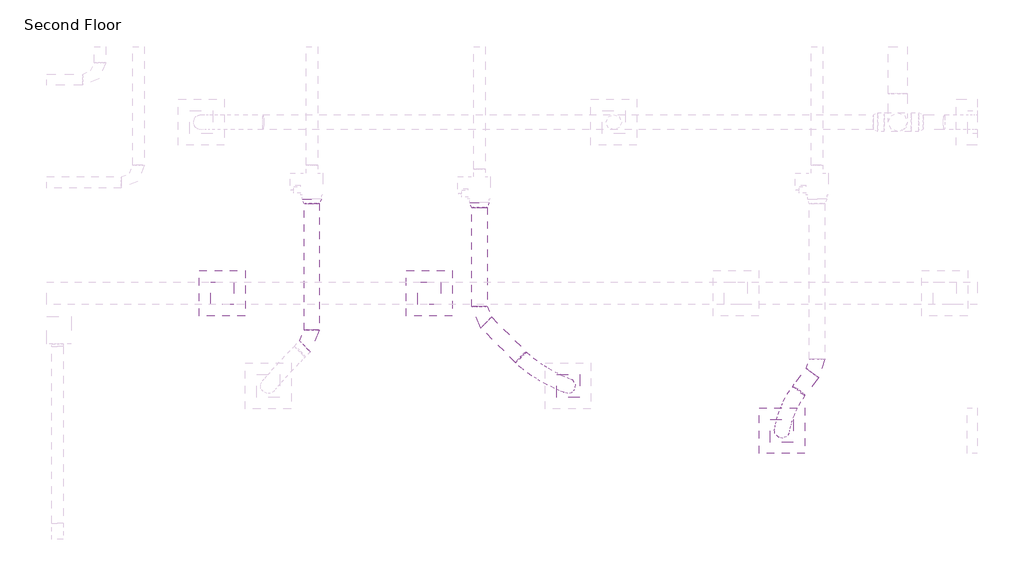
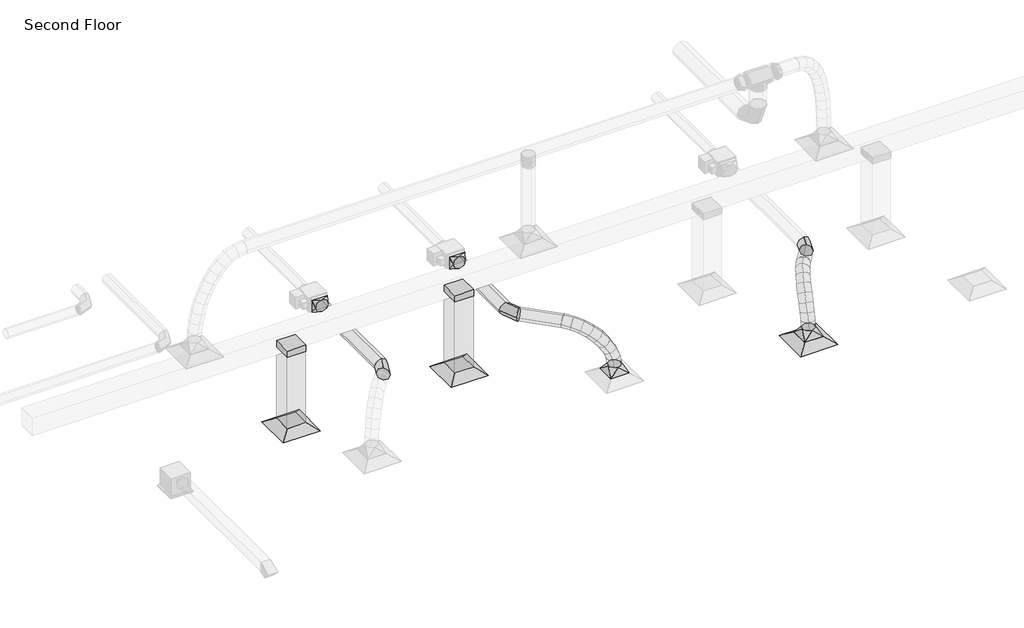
# One storey, part 3 of 44: 9 duct fittings, 8 duct segments, 3 air terminals.
"""IFC4 building model written with IfcOpenShell, lengths in millimetres."""

from ifc_helpers import new_model, si_unit, point, frame, frame_2d, origin, place, context, project, spatial, polyline, circle_curve, ellipse_curve, trimmed, segment, composite_curve, outline, extrude, transform, mapped, element, save
from ifc_brep_helpers import plane_surface, cylinder_surface, advanced_brep
from components import m_exhaust_grill_er_600_x_600_face_300_x_300_connection_ff221211, m_rectangular_takeoff_standard_c00386d1, m_rectangular_to_round_transition_angle_45_degree_60daae35, m_rectangular_to_round_transition_angle_45_degree_1b7ae117, m_round_elbow_1_5_d_f3829448, m_round_elbow_1_5_d_143daf02

model = new_model("IFC4")

# Units and contexts
model_context = context("Model", 3, world=origin())
ifc_project = project(units=[si_unit("LENGTHUNIT", "METRE", prefix="MILLI")], contexts=[model_context])

# Site, building, storey
site = spatial("IfcSite", under=ifc_project)
building = spatial("IfcBuilding", under=site)
storey = spatial("IfcBuildingStorey", under=building, Name="Second Floor", Elevation=4570.0)

# Air terminals
placement = place(None, origin())
m_exhaust_grill_er_600_x_600_face_300_x_300_connection_shape = m_exhaust_grill_er_600_x_600_face_300_x_300_connection_ff221211(model_context)
element("IfcAirTerminal", 1, ObjectType="M_Return Register : RR-600 x 600 Face 300 x 300 Connection", at=placement, inside=storey, context=model_context, shape_type="MappedRepresentation", body=[
    mapped(m_exhaust_grill_er_600_x_600_face_300_x_300_connection_shape, transform((-37234.9794591, 12657.116341, 7250.0), x_axis=(1.0, 0.0, 0.0), y_axis=(0.0, 1.0, 0.0), z_axis=(0.0, 0.0, 1.0))),
])
element("IfcAirTerminal", 2, ObjectType="M_Return Register : RR-600 x 600 Face 300 x 300 Connection", at=placement, inside=storey, context=model_context, shape_type="MappedRepresentation", body=[
    mapped(m_exhaust_grill_er_600_x_600_face_300_x_300_connection_shape, transform((-39949.0523228, 12657.116341, 7250.0), x_axis=(1.0, 0.0, 0.0), y_axis=(0.0, 1.0, 0.0), z_axis=(0.0, 0.0, 1.0))),
])
element("IfcAirTerminal", 3, ObjectType="M_Supply Diffuser : SD-600 x 600 Face 300 x 300 Connection", at=placement, inside=storey, context=model_context, shape_type="MappedRepresentation", body=[
    mapped(m_exhaust_grill_er_600_x_600_face_300_x_300_connection_shape, transform((-32616.8968441, 10855.5728123, 7250.0), x_axis=(1.0, 0.0, 0.0), y_axis=(0.0, 1.0, 0.0), z_axis=(0.0, 0.0, 1.0))),
])

# Duct fittings
m_rectangular_takeoff_standard_shape = m_rectangular_takeoff_standard_c00386d1(model_context)
element("IfcDuctFitting", 4, ObjectType="M_Rectangular Takeoff : Standard", at=placement, inside=storey, context=model_context, shape_type="MappedRepresentation", body=[
    mapped(m_rectangular_takeoff_standard_shape, transform((-39949.0523228, 12657.116341, 8670.0), x_axis=(0.0, 0.0, -1.0), y_axis=(0.0, 1.0, 0.0), z_axis=(1.0, 0.0, 0.0))),
])
element("IfcDuctFitting", 5, ObjectType="M_Rectangular Takeoff : Standard", at=placement, inside=storey, context=model_context, shape_type="MappedRepresentation", body=[
    mapped(m_rectangular_takeoff_standard_shape, transform((-37234.9794591, 12657.116341, 8670.0), x_axis=(0.0, 0.0, -1.0), y_axis=(0.0, 1.0, 0.0), z_axis=(1.0, 0.0, 0.0))),
])
m_rectangular_to_round_transition_angle_45_degree_shape = m_rectangular_to_round_transition_angle_45_degree_60daae35(model_context)
element("IfcDuctFitting", 6, ObjectType="M_Rectangular to Round Transition - Angle : 45 Degree", at=placement, inside=storey, context=model_context, shape_type="MappedRepresentation", body=[
    mapped(m_rectangular_to_round_transition_angle_45_degree_shape, transform((-35417.6922006, 11441.070624, 7351.6), x_axis=(0.0, 0.0, 1.0), y_axis=(1.0, 0.0, 0.0), z_axis=(0.0, 1.0, 0.0))),
])
element("IfcDuctFitting", 7, ObjectType="M_Rectangular to Round Transition - Angle : 45 Degree", at=placement, inside=storey, context=model_context, shape_type="MappedRepresentation", body=[
    mapped(m_rectangular_to_round_transition_angle_45_degree_shape, transform((-32616.8968441, 10855.5728123, 7351.6), x_axis=(0.0, 0.0, 1.0), y_axis=(1.0, 0.0, 0.0), z_axis=(0.0, 1.0, 0.0))),
])
m_rectangular_to_round_transition_angle_45_degree_2_shape = m_rectangular_to_round_transition_angle_45_degree_1b7ae117(model_context)
element("IfcDuctFitting", 8, ObjectType="M_Rectangular to Round Transition - Angle : 45 Degree", at=placement, inside=storey, context=model_context, shape_type="MappedRepresentation", body=[
    mapped(m_rectangular_to_round_transition_angle_45_degree_2_shape, transform((-36578.6814374, 13843.4279081, 8189.05), x_axis=(0.0, -1.0, 0.0), y_axis=(1.0, 0.0, 0.0), z_axis=(0.0, 0.0, 1.0))),
])
element("IfcDuctFitting", 9, ObjectType="M_Rectangular to Round Transition - Angle : 45 Degree", at=placement, inside=storey, context=model_context, shape_type="MappedRepresentation", body=[
    mapped(m_rectangular_to_round_transition_angle_45_degree_2_shape, transform((-38775.1271337, 13891.8174916, 8189.05), x_axis=(0.0, -1.0, 0.0), y_axis=(1.0, 0.0, 0.0), z_axis=(0.0, 0.0, 1.0))),
])
m_round_elbow_1_5_d_shape = m_round_elbow_1_5_d_f3829448(model_context)
element("IfcDuctFitting", 10, ObjectType="M_Round Elbow : 1.5 D", at=placement, inside=storey, context=model_context, shape_type="MappedRepresentation", body=[
    mapped(m_round_elbow_1_5_d_shape, transform((-36578.6814374, 12361.480915, 8189.1), x_axis=(0.0, -1.0, 0.0), y_axis=(1.0, 0.0, 0.0), z_axis=(0.0, 0.0, 1.0))),
])
element("IfcDuctFitting", 11, ObjectType="M_Round Elbow : 1.5 D", at=placement, inside=storey, context=model_context, shape_type="MappedRepresentation", body=[
    mapped(m_round_elbow_1_5_d_shape, transform((-38775.1271337, 12048.3608555, 8189.1), x_axis=(0.7071067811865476, 0.7071067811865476, 0.0), y_axis=(-0.7071067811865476, 0.7071067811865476, 0.0), z_axis=(0.0, 0.0, 1.0))),
])
m_round_elbow_1_5_d_2_shape = m_round_elbow_1_5_d_143daf02(model_context)
element("IfcDuctFitting", 12, ObjectType="M_Round Elbow : 1.5 D", at=placement, inside=storey, context=model_context, shape_type="MappedRepresentation", body=[
    mapped(m_round_elbow_1_5_d_2_shape, transform((-32155.5986641, 11691.8174922, 8189.1), x_axis=(0.6062629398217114, 0.7952642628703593, 0.0), y_axis=(-0.7952642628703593, 0.6062629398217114, 0.0), z_axis=(0.0, 0.0, 1.0))),
])

# Duct segments
element("IfcDuctSegment", 13, ObjectType="Flex - Round", at=placement, inside=storey, context=model_context, shape_type="AdvancedBrep", body=[
    advanced_brep(
    [(-35966.7496243, 11890.738207, 8189.1), (-36043.0952029, 11824.8308363, 8089.9658933), (-36099.8370879, 11741.4474604, 8189.1), (-36023.4915093, 11807.3548311, 8288.2341067), (-35874.8629325, 11808.8244446, 8172.7945932), (-35956.330806, 11747.4834202, 8074.569444), (-36001.2346479, 11653.5468441, 8171.6028754), (-35919.7667743, 11714.8878686, 8269.8280245), (-35364.301019, 11525.5788711, 7475.0923866), (-35334.121166, 11387.8285194, 7485.7702649), (-35471.0833822, 11356.5623769, 7469.5289696), (-35501.2632352, 11494.3127286, 7458.8510913), (-35778.5030753, 11738.2039756, 8127.9840024), (-35870.0093532, 11684.2199237, 8034.4270506), (-35893.541228, 11574.6202034, 8121.5217948), (-35802.0349502, 11628.6042554, 8215.0787466), (-35679.1460529, 11676.0852044, 8057.3317971), (-35779.8545609, 11627.8544573, 7970.3184981), (-35787.2898784, 11508.1910461, 8045.9670732), (-35686.5813703, 11556.4217933, 8132.9803722), (-35583.3357604, 11623.6438998, 7965.1575095), (-35692.8469014, 11580.2312316, 7886.6127831), (-35687.9457539, 11453.8155154, 7950.3930627), (-35578.4346129, 11497.2281836, 8028.9377891), (-35497.5095265, 11581.720729, 7856.0599412), (-35615.8379715, 11542.6150113, 7788.7232847), (-35601.080576, 11411.3848561, 7839.9748462), (-35482.752131, 11450.4905739, 7907.3115027), (-35427.9914293, 11550.9605566, 7734.5916207), (-35555.2003451, 11515.7842446, 7682.7717276), (-35532.3793171, 11380.986116, 7719.9337795), (-35405.1704013, 11416.1624279, 7771.7536726), (-35381.1752911, 11531.9601686, 7605.1078252), (-35516.3957165, 11500.0353379, 7575.4461178), (-35487.4572048, 11362.7544208, 7595.6884698), (-35352.2367794, 11394.6792516, 7625.3501773)],
    [
        (0, 1, circle_curve(frame((-36033.2933561, 11816.0928337, 8189.1), z_axis=(-0.739990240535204, 0.6596753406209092, 0.13131218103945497), x_axis=(0.6654373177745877, 0.746453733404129, 0.0)), 100.0)),
        (1, 2, circle_curve(frame((-36033.2933561, 11816.0928337, 8189.1), z_axis=(-0.739990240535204, 0.6596753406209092, 0.13131218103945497), x_axis=(0.6654373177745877, 0.746453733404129, 0.0)), 100.0)),
        (2, 3, circle_curve(frame((-36033.2933561, 11816.0928337, 8189.1), z_axis=(-0.739990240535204, 0.6596753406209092, 0.13131218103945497), x_axis=(0.6654373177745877, 0.746453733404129, 0.0)), 100.0)),
        (3, 0, circle_curve(frame((-36033.2933561, 11816.0928337, 8189.1), z_axis=(-0.739990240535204, 0.6596753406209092, 0.13131218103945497), x_axis=(0.6654373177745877, 0.746453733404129, 0.0)), 100.0)),
        (0, 4),
        (4, 5, ellipse_curve(frame((-35938.0487902, 11731.1856444, 8172.1987343), z_axis=(-0.7532531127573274, 0.6111648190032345, 0.2430788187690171), x_axis=(0.06217282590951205, 0.43407834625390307, -0.8987271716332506)), 100.7567312, 100.0)),
        (5, 1),
        (5, 6, ellipse_curve(frame((-35938.0487902, 11731.1856444, 8172.1987343), z_axis=(-0.7532531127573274, 0.6111648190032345, 0.2430788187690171), x_axis=(0.06217282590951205, 0.43407834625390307, -0.8987271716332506)), 100.7567312, 100.0)),
        (6, 2),
        (6, 7, ellipse_curve(frame((-35938.0487902, 11731.1856444, 8172.1987343), z_axis=(-0.7532531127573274, 0.6111648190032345, 0.2430788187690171), x_axis=(0.06217282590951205, 0.43407834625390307, -0.8987271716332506)), 100.7567312, 100.0)),
        (7, 3),
        (7, 4, ellipse_curve(frame((-35938.0487902, 11731.1856444, 8172.1987343), z_axis=(-0.7532531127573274, 0.6111648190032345, 0.2430788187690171), x_axis=(0.06217282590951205, 0.43407834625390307, -0.8987271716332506)), 100.7567312, 100.0)),
        (8, 9, circle_curve(frame((-35417.6922006, 11441.070624, 7472.3106781), z_axis=(0.1285550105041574, -0.04861529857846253, -0.9905100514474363), x_axis=(0.5339118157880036, 0.8450824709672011, 0.02781708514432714)), 100.0)),
        (9, 10, circle_curve(frame((-35417.6922006, 11441.070624, 7472.3106781), z_axis=(0.1285550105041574, -0.04861529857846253, -0.9905100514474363), x_axis=(0.5339118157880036, 0.8450824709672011, 0.02781708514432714)), 100.0)),
        (10, 11, circle_curve(frame((-35417.6922006, 11441.070624, 7472.3106781), z_axis=(0.1285550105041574, -0.04861529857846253, -0.9905100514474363), x_axis=(0.5339118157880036, 0.8450824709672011, 0.02781708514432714)), 100.0)),
        (11, 8, circle_curve(frame((-35417.6922006, 11441.070624, 7472.3106781), z_axis=(0.1285550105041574, -0.04861529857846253, -0.9905100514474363), x_axis=(0.5339118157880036, 0.8450824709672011, 0.02781708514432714)), 100.0)),
        (4, 12),
        (12, 13, ellipse_curve(frame((-35836.0221517, 11656.4120895, 8124.7528986), z_axis=(-0.7442148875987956, 0.5061416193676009, 0.4358495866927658), x_axis=(-0.14905471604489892, 0.510226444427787, -0.8470251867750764)), 100.4786601, 100.0)),
        (13, 5),
        (13, 14, ellipse_curve(frame((-35836.0221517, 11656.4120895, 8124.7528986), z_axis=(-0.7442148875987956, 0.5061416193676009, 0.4358495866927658), x_axis=(-0.14905471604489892, 0.510226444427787, -0.8470251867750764)), 100.4786601, 100.0)),
        (14, 6),
        (14, 15, ellipse_curve(frame((-35836.0221517, 11656.4120895, 8124.7528986), z_axis=(-0.7442148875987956, 0.5061416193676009, 0.4358495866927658), x_axis=(-0.14905471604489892, 0.510226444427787, -0.8470251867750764)), 100.4786601, 100.0)),
        (15, 7),
        (15, 12, ellipse_curve(frame((-35836.0221517, 11656.4120895, 8124.7528986), z_axis=(-0.7442148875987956, 0.5061416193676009, 0.4358495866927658), x_axis=(-0.14905471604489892, 0.510226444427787, -0.8470251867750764)), 100.4786601, 100.0)),
        (12, 16),
        (16, 17, ellipse_curve(frame((-35733.2179656, 11592.1381253, 8051.6494351), z_axis=(-0.7006483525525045, 0.4118626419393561, 0.58263286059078), x_axis=(-0.33792639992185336, 0.5276373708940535, -0.7793616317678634)), 100.3420291, 100.0)),
        (17, 13),
        (17, 18, ellipse_curve(frame((-35733.2179656, 11592.1381253, 8051.6494351), z_axis=(-0.7006483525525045, 0.4118626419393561, 0.58263286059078), x_axis=(-0.33792639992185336, 0.5276373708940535, -0.7793616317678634)), 100.3420291, 100.0)),
        (18, 14),
        (18, 19, ellipse_curve(frame((-35733.2179656, 11592.1381253, 8051.6494351), z_axis=(-0.7006483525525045, 0.4118626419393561, 0.58263286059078), x_axis=(-0.33792639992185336, 0.5276373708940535, -0.7793616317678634)), 100.3420291, 100.0)),
        (19, 15),
        (19, 16, ellipse_curve(frame((-35733.2179656, 11592.1381253, 8051.6494351), z_axis=(-0.7006483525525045, 0.4118626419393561, 0.58263286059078), x_axis=(-0.33792639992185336, 0.5276373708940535, -0.7793616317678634)), 100.3420291, 100.0)),
        (16, 20),
        (20, 21, ellipse_curve(frame((-35635.6407571, 11538.7297076, 7957.7752861), z_axis=(-0.6330196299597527, 0.32900314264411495, 0.700744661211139), x_axis=(-0.509225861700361, 0.5048202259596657, -0.6970262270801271)), 100.2983111, 100.0)),
        (21, 17),
        (21, 22, ellipse_curve(frame((-35635.6407571, 11538.7297076, 7957.7752861), z_axis=(-0.6330196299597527, 0.32900314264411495, 0.700744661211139), x_axis=(-0.509225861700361, 0.5048202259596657, -0.6970262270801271)), 100.2983111, 100.0)),
        (22, 18),
        (22, 23, ellipse_curve(frame((-35635.6407571, 11538.7297076, 7957.7752861), z_axis=(-0.6330196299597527, 0.32900314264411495, 0.700744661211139), x_axis=(-0.509225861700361, 0.5048202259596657, -0.6970262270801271)), 100.2983111, 100.0)),
        (23, 19),
        (23, 20, ellipse_curve(frame((-35635.6407571, 11538.7297076, 7957.7752861), z_axis=(-0.6330196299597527, 0.32900314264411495, 0.700744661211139), x_axis=(-0.509225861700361, 0.5048202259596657, -0.6970262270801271)), 100.2983111, 100.0)),
        (20, 24),
        (24, 25, ellipse_curve(frame((-35549.2950513, 11496.5527926, 7848.0173937), z_axis=(-0.5402754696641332, 0.2527141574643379, 0.8026443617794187), x_axis=(-0.6617734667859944, 0.4615618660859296, -0.5907762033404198)), 100.3268665, 100.0)),
        (25, 21),
        (25, 26, ellipse_curve(frame((-35549.2950513, 11496.5527926, 7848.0173937), z_axis=(-0.5402754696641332, 0.2527141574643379, 0.8026443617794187), x_axis=(-0.6617734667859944, 0.4615618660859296, -0.5907762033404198)), 100.3268665, 100.0)),
        (26, 22),
        (26, 27, ellipse_curve(frame((-35549.2950513, 11496.5527926, 7848.0173937), z_axis=(-0.5402754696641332, 0.2527141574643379, 0.8026443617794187), x_axis=(-0.6617734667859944, 0.4615618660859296, -0.5907762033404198)), 100.3268665, 100.0)),
        (27, 23),
        (27, 24, ellipse_curve(frame((-35549.2950513, 11496.5527926, 7848.0173937), z_axis=(-0.5402754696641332, 0.2527141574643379, 0.8026443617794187), x_axis=(-0.6617734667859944, 0.4615618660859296, -0.5907762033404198)), 100.3268665, 100.0)),
        (24, 28),
        (28, 29, ellipse_curve(frame((-35480.1853732, 11465.9733363, 7727.2627001), z_axis=(-0.41279842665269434, 0.17645835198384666, 0.8935658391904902), x_axis=(-0.7914571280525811, 0.4160343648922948, -0.44778457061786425)), 100.4418623, 100.0)),
        (29, 25),
        (29, 30, ellipse_curve(frame((-35480.1853732, 11465.9733363, 7727.2627001), z_axis=(-0.41279842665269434, 0.17645835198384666, 0.8935658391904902), x_axis=(-0.7914571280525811, 0.4160343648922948, -0.44778457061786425)), 100.4418623, 100.0)),
        (30, 26),
        (30, 31, ellipse_curve(frame((-35480.1853732, 11465.9733363, 7727.2627001), z_axis=(-0.41279842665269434, 0.17645835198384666, 0.8935658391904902), x_axis=(-0.7914571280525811, 0.4160343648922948, -0.44778457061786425)), 100.4418623, 100.0)),
        (31, 27),
        (31, 28, ellipse_curve(frame((-35480.1853732, 11465.9733363, 7727.2627001), z_axis=(-0.41279842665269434, 0.17645835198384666, 0.8935658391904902), x_axis=(-0.7914571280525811, 0.4160343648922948, -0.44778457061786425)), 100.4418623, 100.0)),
        (28, 32),
        (32, 33, ellipse_curve(frame((-35434.316248, 11447.3572947, 7600.3981475), z_axis=(-0.23429516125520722, 0.09329725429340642, 0.9676783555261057), x_axis=(-0.8912568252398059, 0.3769474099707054, -0.2521347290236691)), 100.6896609, 100.0)),
        (33, 29),
        (33, 34, ellipse_curve(frame((-35434.316248, 11447.3572947, 7600.3981475), z_axis=(-0.23429516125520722, 0.09329725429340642, 0.9676783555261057), x_axis=(-0.8912568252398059, 0.3769474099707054, -0.2521347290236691)), 100.6896609, 100.0)),
        (34, 30),
        (34, 35, ellipse_curve(frame((-35434.316248, 11447.3572947, 7600.3981475), z_axis=(-0.23429516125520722, 0.09329725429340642, 0.9676783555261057), x_axis=(-0.8912568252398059, 0.3769474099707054, -0.2521347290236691)), 100.6896609, 100.0)),
        (35, 31),
        (35, 32, ellipse_curve(frame((-35434.316248, 11447.3572947, 7600.3981475), z_axis=(-0.23429516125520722, 0.09329725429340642, 0.9676783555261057), x_axis=(-0.8912568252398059, 0.3769474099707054, -0.2521347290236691)), 100.6896609, 100.0)),
        (32, 8),
        (11, 33),
        (10, 34),
        (9, 35),
    ],
    [
        plane_surface(frame((-36033.2933561, 11835.6153945, 8091.0241639), z_axis=(-0.7399902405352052, 0.6596753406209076, 0.13131218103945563), x_axis=(0.6726176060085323, 0.7257516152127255, 0.14446504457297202))),
        cylinder_surface(frame((-36033.2933561, 11816.0928337, 8189.1), z_axis=(-0.739990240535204, 0.6596753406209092, 0.13131218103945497), x_axis=(0.6654373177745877, 0.746453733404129, 0.0)), 100.0),
        plane_surface(frame((-35417.6922006, 11540.9503936, 7467.4084716), z_axis=(0.1285550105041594, -0.04861529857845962, -0.9905100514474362), x_axis=(0.9917023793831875, 0.006302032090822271, 0.12840044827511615))),
        cylinder_surface(frame((-35938.0487902, 11731.1856444, 8172.1987343), z_axis=(-0.7552014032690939, 0.5534740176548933, 0.3511941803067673), x_axis=(0.597589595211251, 0.8015031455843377, 0.021894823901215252)), 100.0),
        cylinder_surface(frame((-35836.0221517, 11656.4120895, 8124.7528986), z_axis=(-0.7261377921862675, 0.4539869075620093, 0.5163523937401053), x_axis=(0.5536539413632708, 0.8313838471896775, 0.0476257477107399)), 100.0),
        cylinder_surface(frame((-35733.2179656, 11592.1381253, 8051.6494351), z_axis=(-0.6703824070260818, 0.3669305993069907, 0.6449413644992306), x_axis=(0.5287774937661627, 0.84600698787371, 0.06831206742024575)), 100.0),
        cylinder_surface(frame((-35635.6407571, 11538.7297076, 7957.7752861), z_axis=(-0.5918913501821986, 0.28911861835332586, 0.7523795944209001), x_axis=(0.517993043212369, 0.8516120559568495, 0.08025031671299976)), 100.0),
        cylinder_surface(frame((-35549.2950513, 11496.5527926, 7848.0173937), z_axis=(-0.48513913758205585, 0.21466300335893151, 0.8476790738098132), x_axis=(0.5177423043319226, 0.8517293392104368, 0.08062281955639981)), 100.0),
        cylinder_surface(frame((-35480.1853732, 11465.9733363, 7727.2627001), z_axis=(-0.3368257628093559, 0.1367011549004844, 0.9315906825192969), x_axis=(0.5248534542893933, 0.8486895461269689, 0.06522963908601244)), 100.0),
        cylinder_surface(frame((-35434.316248, 11447.3572947, 7600.3981475), z_axis=(-0.12855501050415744, 0.04861529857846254, 0.9905100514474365), x_axis=(0.5339118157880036, 0.8450824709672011, 0.02781708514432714)), 100.0),
    ],
    [
        (0, [[1, 2, 3, 4]]),
        (1, [[-1, 5, 6, 7]]),
        (1, [[-2, -7, 8, 9]]),
        (1, [[-3, -9, 10, 11]]),
        (1, [[-4, -11, 12, -5]]),
        (2, [[13, 14, 15, 16]]),
        (3, [[-6, 17, 18, 19]]),
        (3, [[-8, -19, 20, 21]]),
        (3, [[-10, -21, 22, 23]]),
        (3, [[-12, -23, 24, -17]]),
        (4, [[-18, 25, 26, 27]]),
        (4, [[-20, -27, 28, 29]]),
        (4, [[-22, -29, 30, 31]]),
        (4, [[-24, -31, 32, -25]]),
        (5, [[-26, 33, 34, 35]]),
        (5, [[-28, -35, 36, 37]]),
        (5, [[-30, -37, 38, 39]]),
        (5, [[-32, -39, 40, -33]]),
        (6, [[-34, 41, 42, 43]]),
        (6, [[-36, -43, 44, 45]]),
        (6, [[-38, -45, 46, 47]]),
        (6, [[-40, -47, 48, -41]]),
        (7, [[-42, 49, 50, 51]]),
        (7, [[-44, -51, 52, 53]]),
        (7, [[-46, -53, 54, 55]]),
        (7, [[-48, -55, 56, -49]]),
        (8, [[-50, 57, 58, 59]]),
        (8, [[-52, -59, 60, 61]]),
        (8, [[-54, -61, 62, 63]]),
        (8, [[-56, -63, 64, -57]]),
        (9, [[-58, 65, -16, 66]]),
        (9, [[-60, -66, -15, 67]]),
        (9, [[-62, -67, -14, 68]]),
        (9, [[-64, -68, -13, -65]]),
    ],
),
])
element("IfcDuctSegment", 14, ObjectType="Flex - Round", at=placement, inside=storey, context=model_context, shape_type="AdvancedBrep", body=[
    advanced_brep(
    [(-32315.3993446, 11317.498208, 8189.1), (-32388.919847, 11387.2237792, 8090.4436244), (-32480.8083316, 11429.9253711, 8189.1), (-32407.2878292, 11360.1997999, 8287.7563756), (-32375.143475, 11229.5993781, 8171.4997422), (-32442.9926852, 11307.6688643, 8074.5140949), (-32545.5944688, 11334.6084652, 8170.0143977), (-32477.7452586, 11256.5389789, 8267.000045), (-32526.7005576, 10812.5026591, 7475.4077423), (-32660.0500699, 10765.9262938, 7482.3755097), (-32707.0931306, 10898.6429655, 7469.213614), (-32573.7436183, 10945.2193307, 7462.2458465), (-32421.5218483, 11144.279157, 8123.8606871), (-32481.3084746, 11237.1810188, 8035.1567852), (-32598.4136941, 11237.4392967, 8115.7594119), (-32538.6270679, 11144.5374349, 8204.4633138), (-32458.351684, 11060.349705, 8049.3608486), (-32513.1695287, 11164.5746449, 7970.7078582), (-32638.1391204, 11146.9112452, 8035.4023375), (-32583.3212756, 11042.6863053, 8114.055328), (-32486.1335265, 10982.2508617, 7953.3695658), (-32537.834491, 11095.23781, 7885.4859592), (-32666.9605352, 11065.8900112, 7935.8191445), (-32615.2595706, 10952.9030629, 8003.7027511), (-32505.7223422, 10914.2966855, 7841.8130504), (-32555.3432442, 11034.4994319, 7785.7752102), (-32686.7133043, 10997.3670762, 7823.3289301), (-32637.0924023, 10877.1643298, 7879.3667703), (-32518.2155732, 10860.5674436, 7720.6275491), (-32566.3857469, 10987.0092907, 7678.6619074), (-32698.9903179, 10944.567713, 7704.2407565), (-32650.8201442, 10818.1258659, 7746.2063982), (-32524.8183901, 10825.0799088, 7595.5019767), (-32572.0274169, 10956.6875413, 7571.7503881), (-32705.2767376, 10910.7806888, 7585.1110178), (-32658.0677107, 10779.1730563, 7608.8626064)],
    [
        (0, 1, circle_curve(frame((-32398.1038381, 11373.7117895, 8189.1), z_axis=(0.5545828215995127, 0.8159325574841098, 0.16337672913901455), x_axis=(0.827044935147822, -0.5621358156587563, 0.0)), 100.0)),
        (1, 2, circle_curve(frame((-32398.1038381, 11373.7117895, 8189.1), z_axis=(0.5545828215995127, 0.8159325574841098, 0.16337672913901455), x_axis=(0.827044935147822, -0.5621358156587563, 0.0)), 100.0)),
        (2, 3, circle_curve(frame((-32398.1038381, 11373.7117895, 8189.1), z_axis=(0.5545828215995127, 0.8159325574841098, 0.16337672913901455), x_axis=(0.827044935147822, -0.5621358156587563, 0.0)), 100.0)),
        (3, 0, circle_curve(frame((-32398.1038381, 11373.7117895, 8189.1), z_axis=(0.5545828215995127, 0.8159325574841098, 0.16337672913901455), x_axis=(0.827044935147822, -0.5621358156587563, 0.0)), 100.0)),
        (0, 4),
        (4, 5, ellipse_curve(frame((-32460.3689719, 11282.1039216, 8170.75707), z_axis=(0.4975135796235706, 0.8118862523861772, 0.3054847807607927), x_axis=(0.4118502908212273, 0.08886172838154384, -0.9069084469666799)), 101.1873306, 100.0)),
        (5, 1),
        (5, 6, ellipse_curve(frame((-32460.3689719, 11282.1039216, 8170.75707), z_axis=(0.4975135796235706, 0.8118862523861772, 0.3054847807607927), x_axis=(0.4118502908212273, 0.08886172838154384, -0.9069084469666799)), 101.1873306, 100.0)),
        (6, 2),
        (6, 7, ellipse_curve(frame((-32460.3689719, 11282.1039216, 8170.75707), z_axis=(0.4975135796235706, 0.8118862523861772, 0.3054847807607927), x_axis=(0.4118502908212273, 0.08886172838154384, -0.9069084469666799)), 101.1873306, 100.0)),
        (7, 3),
        (7, 4, ellipse_curve(frame((-32460.3689719, 11282.1039216, 8170.75707), z_axis=(0.4975135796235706, 0.8118862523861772, 0.3054847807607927), x_axis=(0.4118502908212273, 0.08886172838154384, -0.9069084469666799)), 101.1873306, 100.0)),
        (8, 9, circle_curve(frame((-32616.8968441, 10855.5728123, 7472.3106781), z_axis=(-0.01558528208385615, -0.10414587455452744, -0.9944399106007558), x_axis=(0.9019628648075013, -0.43070153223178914, 0.0309706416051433)), 100.0)),
        (9, 10, circle_curve(frame((-32616.8968441, 10855.5728123, 7472.3106781), z_axis=(-0.01558528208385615, -0.10414587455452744, -0.9944399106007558), x_axis=(0.9019628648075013, -0.43070153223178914, 0.0309706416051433)), 100.0)),
        (10, 11, circle_curve(frame((-32616.8968441, 10855.5728123, 7472.3106781), z_axis=(-0.01558528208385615, -0.10414587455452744, -0.9944399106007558), x_axis=(0.9019628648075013, -0.43070153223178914, 0.0309706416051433)), 100.0)),
        (11, 8, circle_curve(frame((-32616.8968441, 10855.5728123, 7472.3106781), z_axis=(-0.01558528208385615, -0.10414587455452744, -0.9944399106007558), x_axis=(0.9019628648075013, -0.43070153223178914, 0.0309706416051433)), 100.0)),
        (4, 12),
        (12, 13, ellipse_curve(frame((-32509.9677712, 11190.8592268, 8119.8100495), z_axis=(0.3729132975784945, 0.7549897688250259, 0.5393756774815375), x_axis=(0.4941370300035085, 0.3304230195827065, -0.8041450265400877)), 100.7076496, 100.0)),
        (13, 5),
        (13, 14, ellipse_curve(frame((-32509.9677712, 11190.8592268, 8119.8100495), z_axis=(0.3729132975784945, 0.7549897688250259, 0.5393756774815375), x_axis=(0.4941370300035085, 0.3304230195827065, -0.8041450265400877)), 100.7076496, 100.0)),
        (14, 6),
        (14, 15, ellipse_curve(frame((-32509.9677712, 11190.8592268, 8119.8100495), z_axis=(0.3729132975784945, 0.7549897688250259, 0.5393756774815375), x_axis=(0.4941370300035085, 0.3304230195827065, -0.8041450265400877)), 100.7076496, 100.0)),
        (15, 7),
        (15, 12, ellipse_curve(frame((-32509.9677712, 11190.8592268, 8119.8100495), z_axis=(0.3729132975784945, 0.7549897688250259, 0.5393756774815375), x_axis=(0.4941370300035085, 0.3304230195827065, -0.8041450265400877)), 100.7076496, 100.0)),
        (12, 16),
        (16, 17, ellipse_curve(frame((-32548.2454022, 11103.6304751, 8042.3815931), z_axis=(0.26655182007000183, 0.6659760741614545, 0.6967251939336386), x_axis=(0.5068686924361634, 0.5179840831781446, -0.6890403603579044)), 100.4213555, 100.0)),
        (17, 13),
        (17, 18, ellipse_curve(frame((-32548.2454022, 11103.6304751, 8042.3815931), z_axis=(0.26655182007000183, 0.6659760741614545, 0.6967251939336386), x_axis=(0.5068686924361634, 0.5179840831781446, -0.6890403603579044)), 100.4213555, 100.0)),
        (18, 14),
        (18, 19, ellipse_curve(frame((-32548.2454022, 11103.6304751, 8042.3815931), z_axis=(0.26655182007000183, 0.6659760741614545, 0.6967251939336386), x_axis=(0.5068686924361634, 0.5179840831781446, -0.6890403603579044)), 100.4213555, 100.0)),
        (19, 15),
        (19, 16, ellipse_curve(frame((-32548.2454022, 11103.6304751, 8042.3815931), z_axis=(0.26655182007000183, 0.6659760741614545, 0.6967251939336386), x_axis=(0.5068686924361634, 0.5179840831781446, -0.6890403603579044)), 100.4213555, 100.0)),
        (16, 20),
        (20, 21, ellipse_curve(frame((-32576.5470308, 11024.0704365, 7944.5943552), z_axis=(0.18420687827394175, 0.566756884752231, 0.8030283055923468), x_axis=(0.4668429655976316, 0.6685189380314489, -0.5789128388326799)), 100.2882904, 100.0)),
        (21, 17),
        (21, 22, ellipse_curve(frame((-32576.5470308, 11024.0704365, 7944.5943552), z_axis=(0.18420687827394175, 0.566756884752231, 0.8030283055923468), x_axis=(0.4668429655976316, 0.6685189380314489, -0.5789128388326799)), 100.2882904, 100.0)),
        (22, 18),
        (22, 23, ellipse_curve(frame((-32576.5470308, 11024.0704365, 7944.5943552), z_axis=(0.18420687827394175, 0.566756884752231, 0.8030283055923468), x_axis=(0.4668429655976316, 0.6685189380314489, -0.5789128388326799)), 100.2882904, 100.0)),
        (23, 19),
        (23, 20, ellipse_curve(frame((-32576.5470308, 11024.0704365, 7944.5943552), z_axis=(0.18420687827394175, 0.566756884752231, 0.8030283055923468), x_axis=(0.4668429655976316, 0.6685189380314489, -0.5789128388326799)), 100.2882904, 100.0)),
        (20, 24),
        (24, 25, ellipse_curve(frame((-32596.2178233, 10955.8318809, 7832.5709902), z_axis=(0.12136409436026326, 0.4601271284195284, 0.879519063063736), x_axis=(0.3893593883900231, 0.7929866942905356, -0.4685844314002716)), 100.2455986, 100.0)),
        (25, 21),
        (25, 26, ellipse_curve(frame((-32596.2178233, 10955.8318809, 7832.5709902), z_axis=(0.12136409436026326, 0.4601271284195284, 0.879519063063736), x_axis=(0.3893593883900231, 0.7929866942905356, -0.4685844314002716)), 100.2455986, 100.0)),
        (26, 22),
        (26, 27, ellipse_curve(frame((-32596.2178233, 10955.8318809, 7832.5709902), z_axis=(0.12136409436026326, 0.4601271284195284, 0.879519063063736), x_axis=(0.3893593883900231, 0.7929866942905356, -0.4685844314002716)), 100.2455986, 100.0)),
        (27, 23),
        (27, 24, ellipse_curve(frame((-32596.2178233, 10955.8318809, 7832.5709902), z_axis=(0.12136409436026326, 0.4601271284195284, 0.879519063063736), x_axis=(0.3893593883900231, 0.7929866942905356, -0.4685844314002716)), 100.2455986, 100.0)),
        (24, 28),
        (28, 29, ellipse_curve(frame((-32608.6029456, 10902.5675783, 7712.4341528), z_axis=(0.07246105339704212, 0.33893007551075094, 0.9380169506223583), x_axis=(0.29347616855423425, 0.8916068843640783, -0.3448317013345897)), 100.2710295, 100.0)),
        (29, 25),
        (29, 30, ellipse_curve(frame((-32608.6029456, 10902.5675783, 7712.4341528), z_axis=(0.07246105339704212, 0.33893007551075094, 0.9380169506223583), x_axis=(0.29347616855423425, 0.8916068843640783, -0.3448317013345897)), 100.2710295, 100.0)),
        (30, 26),
        (30, 31, ellipse_curve(frame((-32608.6029456, 10902.5675783, 7712.4341528), z_axis=(0.07246105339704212, 0.33893007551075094, 0.9380169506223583), x_axis=(0.29347616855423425, 0.8916068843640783, -0.3448317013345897)), 100.2710295, 100.0)),
        (31, 27),
        (31, 28, ellipse_curve(frame((-32608.6029456, 10902.5675783, 7712.4341528), z_axis=(0.07246105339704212, 0.33893007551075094, 0.9380169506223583), x_axis=(0.29347616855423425, 0.8916068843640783, -0.3448317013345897)), 100.2710295, 100.0)),
        (28, 32),
        (32, 33, ellipse_curve(frame((-32615.0475638, 10867.9302988, 7590.3064972), z_axis=(0.03327155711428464, 0.18905139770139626, 0.9814033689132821), x_axis=(0.2003962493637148, 0.9607439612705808, -0.1918655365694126)), 100.3860699, 100.0)),
        (33, 29),
        (33, 34, ellipse_curve(frame((-32615.0475638, 10867.9302988, 7590.3064972), z_axis=(0.03327155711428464, 0.18905139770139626, 0.9814033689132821), x_axis=(0.2003962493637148, 0.9607439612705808, -0.1918655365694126)), 100.3860699, 100.0)),
        (34, 30),
        (34, 35, ellipse_curve(frame((-32615.0475638, 10867.9302988, 7590.3064972), z_axis=(0.03327155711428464, 0.18905139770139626, 0.9814033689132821), x_axis=(0.2003962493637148, 0.9607439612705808, -0.1918655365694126)), 100.3860699, 100.0)),
        (35, 31),
        (35, 32, ellipse_curve(frame((-32615.0475638, 10867.9302988, 7590.3064972), z_axis=(0.03327155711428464, 0.18905139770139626, 0.9814033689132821), x_axis=(0.2003962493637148, 0.9607439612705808, -0.1918655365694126)), 100.3860699, 100.0)),
        (32, 8),
        (11, 33),
        (10, 34),
        (9, 35),
    ],
    [
        plane_surface(frame((-32398.1038381, 11393.3453825, 8091.0463309), z_axis=(0.5545828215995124, 0.8159325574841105, 0.1633767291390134), x_axis=(0.8321285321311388, -0.5437888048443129, -0.10888453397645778))),
        cylinder_surface(frame((-32398.1038381, 11373.7117895, 8189.1), z_axis=(0.5545828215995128, 0.81593255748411, 0.16337672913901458), x_axis=(0.827044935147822, -0.5621358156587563, 0.0)), 100.0),
        plane_surface(frame((-32616.8968441, 10955.0288831, 7461.8948256), z_axis=(-0.015585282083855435, -0.10414587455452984, -0.9944399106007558), x_axis=(0.9998785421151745, -0.001623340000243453, -0.015500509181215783))),
        cylinder_surface(frame((-32460.3689719, 11282.1039216, 8170.75707), z_axis=(0.4287687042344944, 0.7887866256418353, 0.4404237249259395), x_axis=(0.8717457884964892, -0.48918904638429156, 0.027447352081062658)), 100.0),
        cylinder_surface(frame((-32509.9677712, 11190.8592268, 8119.8100495), z_axis=(0.31181713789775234, 0.7105826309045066, 0.6307474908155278), x_axis=(0.8937049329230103, -0.44473118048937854, 0.05920869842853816)), 100.0),
        cylinder_surface(frame((-32548.2454022, 11103.6304751, 8042.3815931), z_axis=(0.21904966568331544, 0.615780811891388, 0.7568561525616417), x_axis=(0.9026128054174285, -0.4224749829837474, 0.08249249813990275)), 100.0),
        cylinder_surface(frame((-32576.5470308, 11024.0704365, 7944.5943552), z_axis=(0.14830504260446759, 0.5144745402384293, 0.8445836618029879), x_axis=(0.9051656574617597, -0.41462051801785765, 0.09362135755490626)), 100.0),
        cylinder_surface(frame((-32596.2178233, 10955.8318809, 7832.5709902), z_axis=(0.09382846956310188, 0.4035251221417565, 0.9101448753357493), x_axis=(0.9048214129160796, -0.4159256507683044, 0.09112663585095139)), 100.0),
        cylinder_surface(frame((-32608.6029456, 10902.5675783, 7712.4341528), z_axis=(0.050701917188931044, 0.27250279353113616, 0.9608181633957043), x_axis=(0.9033616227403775, -0.4227536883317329, 0.07222947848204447)), 100.0),
        cylinder_surface(frame((-32615.0475638, 10867.9302988, 7590.3064972), z_axis=(0.015585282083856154, 0.10414587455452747, 0.994439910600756), x_axis=(0.9019628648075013, -0.43070153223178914, 0.0309706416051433)), 100.0),
    ],
    [
        (0, [[1, 2, 3, 4]]),
        (1, [[-1, 5, 6, 7]]),
        (1, [[-2, -7, 8, 9]]),
        (1, [[-3, -9, 10, 11]]),
        (1, [[-4, -11, 12, -5]]),
        (2, [[13, 14, 15, 16]]),
        (3, [[-6, 17, 18, 19]]),
        (3, [[-8, -19, 20, 21]]),
        (3, [[-10, -21, 22, 23]]),
        (3, [[-12, -23, 24, -17]]),
        (4, [[-18, 25, 26, 27]]),
        (4, [[-20, -27, 28, 29]]),
        (4, [[-22, -29, 30, 31]]),
        (4, [[-24, -31, 32, -25]]),
        (5, [[-26, 33, 34, 35]]),
        (5, [[-28, -35, 36, 37]]),
        (5, [[-30, -37, 38, 39]]),
        (5, [[-32, -39, 40, -33]]),
        (6, [[-34, 41, 42, 43]]),
        (6, [[-36, -43, 44, 45]]),
        (6, [[-38, -45, 46, 47]]),
        (6, [[-40, -47, 48, -41]]),
        (7, [[-42, 49, 50, 51]]),
        (7, [[-44, -51, 52, 53]]),
        (7, [[-46, -53, 54, 55]]),
        (7, [[-48, -55, 56, -49]]),
        (8, [[-50, 57, 58, 59]]),
        (8, [[-52, -59, 60, 61]]),
        (8, [[-54, -61, 62, 63]]),
        (8, [[-56, -63, 64, -57]]),
        (9, [[-58, 65, -16, 66]]),
        (9, [[-60, -66, -15, 67]]),
        (9, [[-62, -67, -14, 68]]),
        (9, [[-64, -68, -13, -65]]),
    ],
),
])
element("IfcDuctSegment", 15, ObjectType="Mitered Elbows / Taps", at=placement, inside=storey, context=model_context, shape_type="SweptSolid", body=[
    extrude(outline(polyline([(-40099.0523228, 12507.116341), (-40099.0523228, 12807.116341), (-39799.0523228, 12807.116341), (-39799.0523228, 12507.116341), (-40099.0523228, 12507.116341)])), frame((0.0, 0.0, 7351.6), z_axis=(0.0, 0.0, 1.0), x_axis=(1.0, 0.0, 0.0)), (0.0, 0.0, 1.0), 1218.4),
])
element("IfcDuctSegment", 16, ObjectType="Mitered Elbows / Taps", at=placement, inside=storey, context=model_context, shape_type="SweptSolid", body=[
    extrude(outline(polyline([(-37384.9794591, 12507.116341), (-37384.9794591, 12807.116341), (-37084.9794591, 12807.116341), (-37084.9794591, 12507.116341), (-37384.9794591, 12507.116341)])), frame((0.0, 0.0, 7351.6), z_axis=(0.0, 0.0, 1.0), x_axis=(1.0, 0.0, 0.0)), (0.0, 0.0, 1.0), 1218.4),
])
element("IfcDuctSegment", 17, ObjectType="Taps", at=placement, inside=storey, context=model_context, shape_type="SweptSolid", body=[
    extrude(outline(composite_curve([segment(trimmed(circle_curve(frame_2d((0.0, -100.0)), 100.0), [point((-100.0, -100.0))], [point((0.0, 0.0))], False, "CARTESIAN"), True, "CONTINUOUS"), segment(trimmed(circle_curve(frame_2d((0.0, -100.0)), 100.0), [point((0.0, 0.0))], [point((100.0, -100.0))], False, "CARTESIAN"), True, "CONTINUOUS"), segment(trimmed(circle_curve(frame_2d((0.0, -100.0)), 100.0), [point((100.0, -100.0))], [point((0.0, -200.0))], False, "CARTESIAN"), True, "CONTINUOUS"), segment(trimmed(circle_curve(frame_2d((0.0, -100.0)), 100.0), [point((0.0, -200.0))], [point((-100.0, -100.0))], False, "CARTESIAN"), True, "CONTINUOUS")], self_intersect=False)), frame((-32398.1038381, 11373.7117895, 8089.1), z_axis=(0.606262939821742, 0.795264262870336, 0.0), x_axis=(0.795264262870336, -0.606262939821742, 0.0)), (0.0, 0.0, 1.0), 298.6896295),
])
element("IfcDuctSegment", 18, ObjectType="Taps", at=placement, inside=storey, context=model_context, shape_type="SweptSolid", body=[
    extrude(outline(composite_curve([segment(trimmed(circle_curve(frame_2d((8189.1, -36578.6814374)), 100.0), [point((8189.1, -36678.6814374))], [point((8089.1, -36578.6814374))], False, "CARTESIAN"), True, "CONTINUOUS"), segment(trimmed(circle_curve(frame_2d((8189.1, -36578.6814374)), 100.0), [point((8089.1, -36578.6814374))], [point((8189.1, -36478.6814374))], False, "CARTESIAN"), True, "CONTINUOUS"), segment(trimmed(circle_curve(frame_2d((8189.1, -36578.6814374)), 100.0), [point((8189.1, -36478.6814374))], [point((8289.1, -36578.6814374))], False, "CARTESIAN"), True, "CONTINUOUS"), segment(trimmed(circle_curve(frame_2d((8189.1, -36578.6814374)), 100.0), [point((8289.1, -36578.6814374))], [point((8189.1, -36678.6814374))], False, "CARTESIAN"), True, "CONTINUOUS")], self_intersect=False)), frame((0.0, 12485.7449837, 0.0), z_axis=(0.0, 1.0, 0.0), x_axis=(0.0, 0.0, 1.0)), (0.0, 0.0, 1.0), 1297.3275853),
])
element("IfcDuctSegment", 19, ObjectType="Taps", at=placement, inside=storey, context=model_context, shape_type="SweptSolid", body=[
    extrude(outline(composite_curve([segment(trimmed(circle_curve(frame_2d((0.0, -100.0)), 100.0), [point((-100.0, -100.0))], [point((0.0, 0.0))], False, "CARTESIAN"), True, "CONTINUOUS"), segment(trimmed(circle_curve(frame_2d((0.0, -100.0)), 100.0), [point((0.0, 0.0))], [point((100.0, -100.0))], False, "CARTESIAN"), True, "CONTINUOUS"), segment(trimmed(circle_curve(frame_2d((0.0, -100.0)), 100.0), [point((100.0, -100.0))], [point((0.0, -200.0))], False, "CARTESIAN"), True, "CONTINUOUS"), segment(trimmed(circle_curve(frame_2d((0.0, -100.0)), 100.0), [point((0.0, -200.0))], [point((-100.0, -100.0))], False, "CARTESIAN"), True, "CONTINUOUS")], self_intersect=False)), frame((-36033.2933561, 11816.0928337, 8089.1), z_axis=(-0.7071067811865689, 0.7071067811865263, 0.0), x_axis=(0.7071067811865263, 0.7071067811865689, 0.0)), (0.0, 0.0, 1.0), 647.0311526),
])
element("IfcDuctSegment", 20, ObjectType="Taps", at=placement, inside=storey, context=model_context, shape_type="SweptSolid", body=[
    extrude(outline(composite_curve([segment(trimmed(circle_curve(frame_2d((8189.1, -38775.1271337)), 100.0), [point((8189.1, -38875.1271337))], [point((8089.1, -38775.1271337))], False, "CARTESIAN"), True, "CONTINUOUS"), segment(trimmed(circle_curve(frame_2d((8189.1, -38775.1271337)), 100.0), [point((8089.1, -38775.1271337))], [point((8189.1, -38675.1271337))], False, "CARTESIAN"), True, "CONTINUOUS"), segment(trimmed(circle_curve(frame_2d((8189.1, -38775.1271337)), 100.0), [point((8189.1, -38675.1271337))], [point((8289.1, -38775.1271337))], False, "CARTESIAN"), True, "CONTINUOUS"), segment(trimmed(circle_curve(frame_2d((8189.1, -38775.1271337)), 100.0), [point((8289.1, -38775.1271337))], [point((8189.1, -38875.1271337))], False, "CARTESIAN"), True, "CONTINUOUS")], self_intersect=False)), frame((0.0, 12172.6249243, 0.0), z_axis=(0.0, 1.0, 0.0), x_axis=(0.0, 0.0, 1.0)), (0.0, 0.0, 1.0), 1658.8372283),
])

save(model, "model.ifc")
